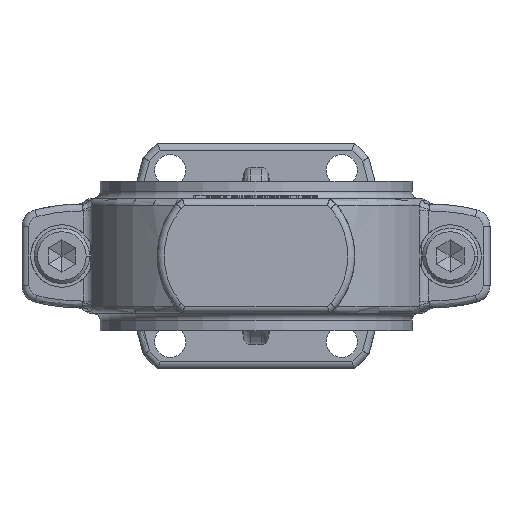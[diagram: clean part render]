
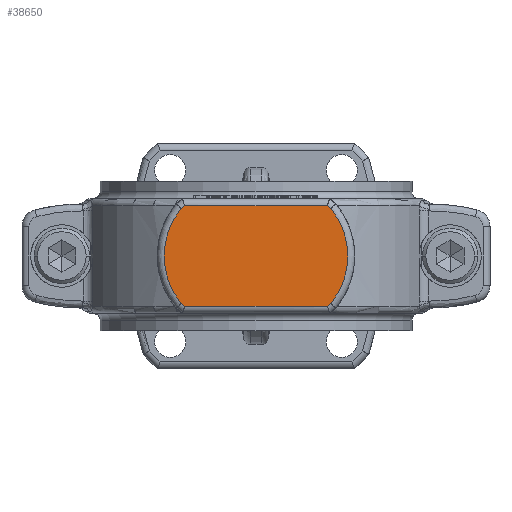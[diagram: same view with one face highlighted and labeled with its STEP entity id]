
A CAD part, front view. The second image highlights one B-rep face of the part: STEP entity #38650.
In plain terms, the highlighted planar face has unit normal (0, -1, 0).
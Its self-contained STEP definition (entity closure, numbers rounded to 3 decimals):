
#13625=CARTESIAN_POINT('',(21.592,-72.,-13.663));
#13627=CARTESIAN_POINT('',(20.548,-72.,-14.5));
#13636=CARTESIAN_POINT('',(5.027,-72.,0.));
#13637=DIRECTION('',(0.,-1.,0.));
#13638=DIRECTION('',(0.771,0.,-0.636));
#13639=AXIS2_PLACEMENT_3D('',#13636,#13637,#13638);
#13647=CARTESIAN_POINT('',(21.592,-72.,13.663));
#13654=DIRECTION('',(-0.78,0.,-0.625));
#13655=VECTOR('',#13654,1.338);
#13656=CARTESIAN_POINT('',(-20.548,-72.,14.5));
#13657=LINE('',#13656,#13655);
#13658=DIRECTION('',(-1.,0.,0.));
#13659=VECTOR('',#13658,41.095);
#13660=CARTESIAN_POINT('',(20.548,-72.,14.5));
#13661=LINE('',#13660,#13659);
#13662=DIRECTION('',(-0.78,0.,0.625));
#13663=VECTOR('',#13662,1.338);
#13664=CARTESIAN_POINT('',(21.592,-72.,13.663));
#13665=LINE('',#13664,#13663);
#13666=DIRECTION('',(0.78,0.,0.625));
#13667=VECTOR('',#13666,1.338);
#13668=CARTESIAN_POINT('',(20.548,-72.,-14.5));
#13669=LINE('',#13668,#13667);
#13670=DIRECTION('',(1.,0.,0.));
#13671=VECTOR('',#13670,41.095);
#13672=CARTESIAN_POINT('',(-20.548,-72.,-14.5));
#13673=LINE('',#13672,#13671);
#13674=DIRECTION('',(0.78,0.,-0.625));
#13675=VECTOR('',#13674,1.338);
#13676=CARTESIAN_POINT('',(-21.592,-72.,-13.663));
#13677=LINE('',#13676,#13675);
#13678=CARTESIAN_POINT('',(-20.548,-72.,14.5));
#13693=CARTESIAN_POINT('',(-21.592,-72.,13.663));
#13702=CARTESIAN_POINT('',(20.548,-72.,14.5));
#13716=CARTESIAN_POINT('',(-5.027,-72.,0.));
#13717=DIRECTION('',(0.,-1.,0.));
#13718=DIRECTION('',(-0.771,0.,0.636));
#13719=AXIS2_PLACEMENT_3D('',#13716,#13717,#13718);
#13727=CARTESIAN_POINT('',(-21.592,-72.,-13.663));
#13741=CARTESIAN_POINT('',(-20.548,-72.,-14.5));
#16084=VERTEX_POINT('',#13702);
#16086=VERTEX_POINT('',#13647);
#16088=VERTEX_POINT('',#13625);
#16089=VERTEX_POINT('',#13627);
#16092=VERTEX_POINT('',#13741);
#16094=VERTEX_POINT('',#13727);
#16095=VERTEX_POINT('',#13678);
#16098=VERTEX_POINT('',#13693);
#38630=CARTESIAN_POINT('',(0.,-72.,0.));
#38631=DIRECTION('',(0.,-1.,0.));
#38632=DIRECTION('',(1.,0.,0.));
#38633=AXIS2_PLACEMENT_3D('',#38630,#38631,#38632);
#38634=PLANE('',#38633);
#38636=ORIENTED_EDGE('',*,*,#38635,.F.);
#38638=ORIENTED_EDGE('',*,*,#38637,.F.);
#38640=ORIENTED_EDGE('',*,*,#38639,.F.);
#38641=ORIENTED_EDGE('',*,*,#38621,.F.);
#38642=ORIENTED_EDGE('',*,*,#38611,.F.);
#38643=ORIENTED_EDGE('',*,*,#38596,.F.);
#38645=ORIENTED_EDGE('',*,*,#38644,.F.);
#38647=ORIENTED_EDGE('',*,*,#38646,.F.);
#38648=EDGE_LOOP('',(#38636,#38638,#38640,#38641,#38642,#38643,#38645,#38647));
#38649=FACE_OUTER_BOUND('',#38648,.F.);
#38650=ADVANCED_FACE('',(#38649),#38634,.T.);
#13640=CIRCLE('',#13639,21.473);
#13720=CIRCLE('',#13719,21.473);
#38596=EDGE_CURVE('',#16092,#16089,#13673,.T.);
#38611=EDGE_CURVE('',#16089,#16088,#13669,.T.);
#38621=EDGE_CURVE('',#16088,#16086,#13640,.T.);
#38635=EDGE_CURVE('',#16095,#16098,#13657,.T.);
#38637=EDGE_CURVE('',#16084,#16095,#13661,.T.);
#38639=EDGE_CURVE('',#16086,#16084,#13665,.T.);
#38644=EDGE_CURVE('',#16094,#16092,#13677,.T.);
#38646=EDGE_CURVE('',#16098,#16094,#13720,.T.);
